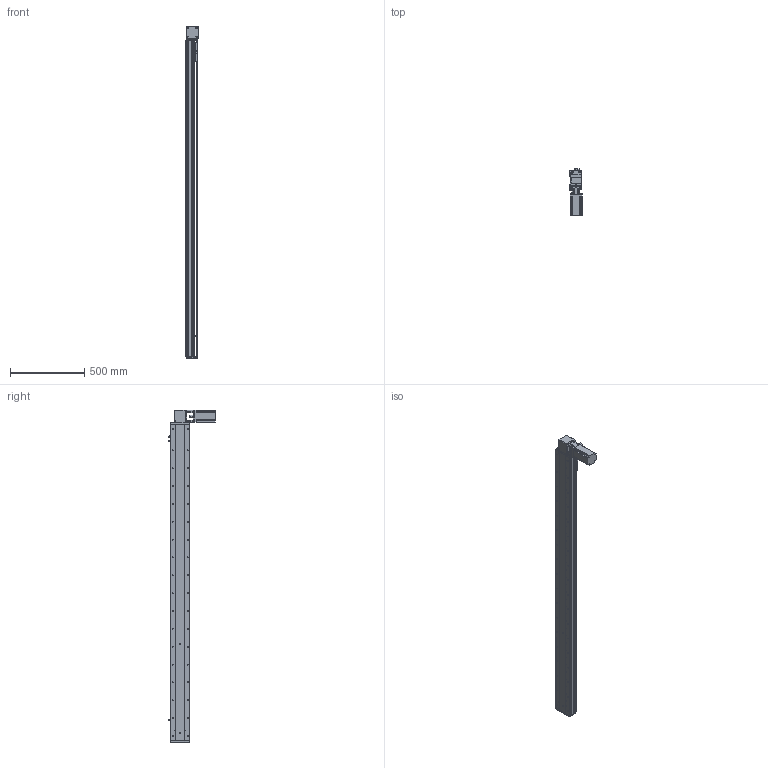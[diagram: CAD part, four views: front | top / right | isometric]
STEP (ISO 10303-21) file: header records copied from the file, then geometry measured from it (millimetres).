
FILE_DESCRIPTION (( 'STEP AP214' ), '1' );
FILE_NAME ('KSD130B-S1900-MLT-CM.STEP', '2019-09-23T07:44:50', ( '微软用户' ), ( '微软中国' ), 'SwSTEP 2.0', 'SolidWorks 2014', '' );
FILE_SCHEMA (( 'AUTOMOTIVE_DESIGN' ));
Length unit declared in the file: millimetre
Products named in the file (12): 台达ECMA－C20807AS伺服电机; 130宽马达安装板1-带电机座750W（1）; 覜茼え100遵圉猾敕; U倰嫖萇EEㄜSX672; 130宽安装板同步带带电机座750W; 130宽盖板半封闭同步带-1900行程; 130宽马达安装板同步带左-改; 130宽马达安装板同步带半封闭; 130宽同步带安装座半封闭; 130宽端盖同步带半封闭; 130宽底板半封闭同步带-1900行程; KSD130B-S1900-MLT-CM
Assembly tree (13 placements, depth 2):
  KSD130B-S1900-MLT-CM
    130宽底板半封闭同步带-1900行程
    130宽端盖同步带半封闭
    130宽同步带安装座半封闭
    130宽马达安装板同步带半封闭
    130宽马达安装板同步带左-改
    130宽盖板半封闭同步带-1900行程
    130宽安装板同步带带电机座750W
    U倰嫖萇EEㄜSX672  x3
    覜茼え100遵圉猾敕
    130宽马达安装板1-带电机座750W（1）
    台达ECMA－C20807AS伺服电机
Bounding box: 81 x 316 x 2233 mm (x, y, z)
Volume: 7391642.6 mm3; surface area: 2057811.3 mm2
Topology: 14 solids, 14 shells, 1747 faces, 5092 edges, 3221 vertices
Faces by surface type: cylinder 869, plane 637, cone 241
Entity records: 59807 total; most frequent: CARTESIAN_POINT 11635, DIRECTION 8998, ORIENTED_EDGE 8700, EDGE_CURVE 4350, AXIS2_PLACEMENT_3D 3336, VERTEX_POINT 2845, VECTOR 2326, LINE 2326
